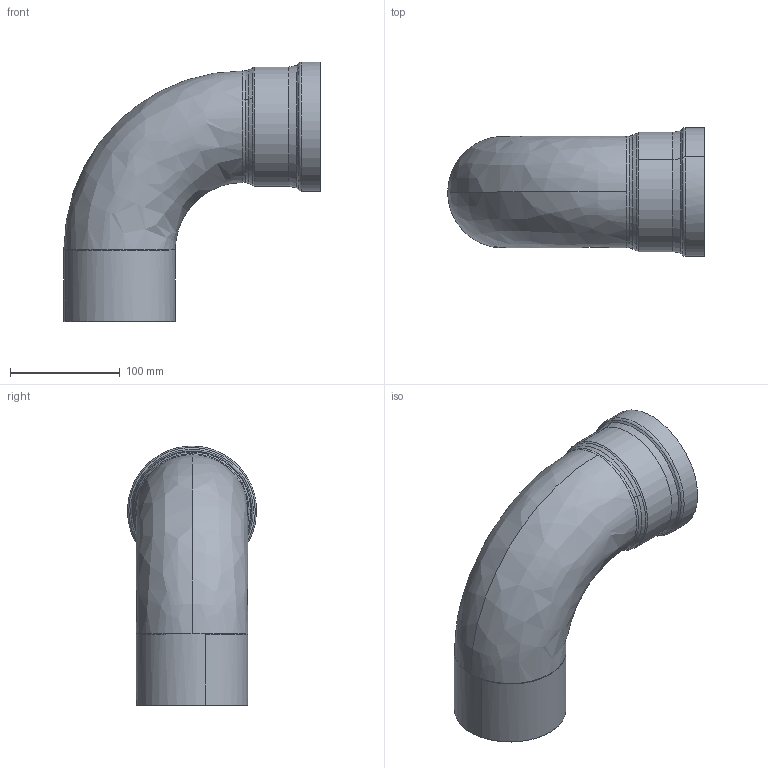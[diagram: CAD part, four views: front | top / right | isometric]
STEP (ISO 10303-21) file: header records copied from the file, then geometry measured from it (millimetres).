
FILE_DESCRIPTION(('STEP AP214'),'1');
FILE_NAME('pim0004452.stp','2015-04-30T05:29:09',('Cad-Pim'),('TransMagic, Inc.'),'TMR11sp0','TransMagic R11',' ');
FILE_SCHEMA(('AUTOMOTIVE_DESIGN'));
Length unit declared in the file: millimetre
Products named in the file (1): pim0004452
Bounding box: 233.24 x 117.36 x 236.2 mm (x, y, z)
Volume: 2146526.7 mm3; surface area: 139958 mm2
Topology: 1 solids, 1 shells, 31 faces, 86 edges, 58 vertices
Faces by surface type: bspline 13, cone 10, cylinder 8
Entity records: 1760 total; most frequent: CARTESIAN_POINT 867, ORIENTED_EDGE 172, DIRECTION 90, EDGE_CURVE 86, VERTEX_POINT 58, AXIS2_PLACEMENT_3D 35, STYLED_ITEM 32, PRESENTATION_STYLE_ASSIGNMENT 32
